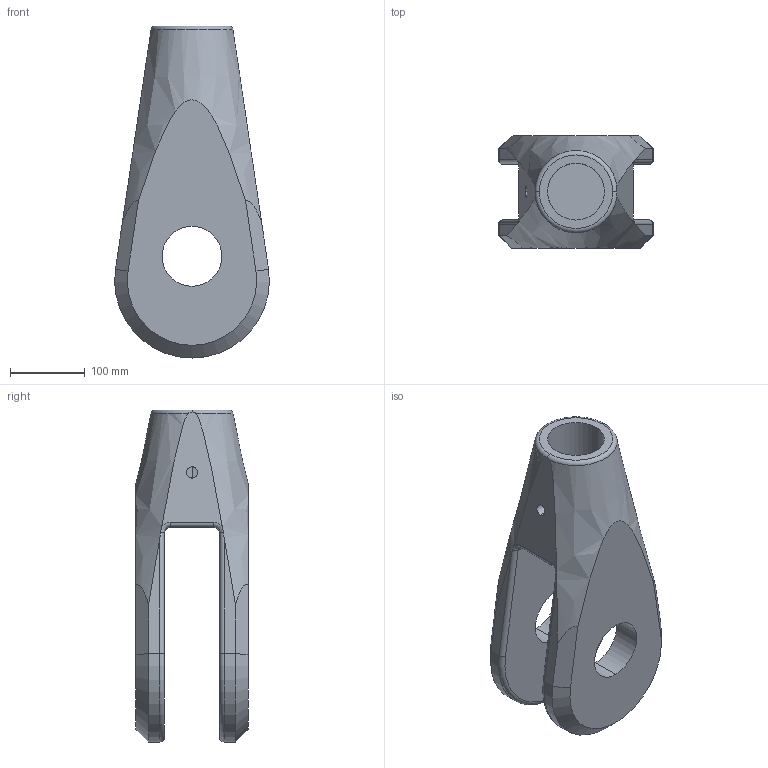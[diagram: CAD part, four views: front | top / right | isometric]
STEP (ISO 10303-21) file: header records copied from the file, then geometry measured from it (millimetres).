
FILE_DESCRIPTION (( 'STEP AP203' ), '1' );
FILE_NAME ('Gabelkopf M76.STEP', '2018-02-20T06:40:09', ( 'install' ), ( 'Hewlett-Packard Company' ), 'SwSTEP 2.0', 'SolidWorks 2017', '' );
FILE_SCHEMA (( 'CONFIG_CONTROL_DESIGN' ));
Length unit declared in the file: millimetre
Products named in the file (1): Gabelkopf M76
Bounding box: 206.94 x 150 x 444 mm (x, y, z)
Volume: 4898332.7 mm3; surface area: 359741.5 mm2
Topology: 1 solids, 1 shells, 51 faces, 127 edges, 78 vertices
Faces by surface type: cylinder 20, plane 17, cone 5, torus 5, bspline 4
Entity records: 2209 total; most frequent: CARTESIAN_POINT 973, ORIENTED_EDGE 254, DIRECTION 230, EDGE_CURVE 127, AXIS2_PLACEMENT_3D 93, VERTEX_POINT 78, EDGE_LOOP 57, FACE_OUTER_BOUND 51
